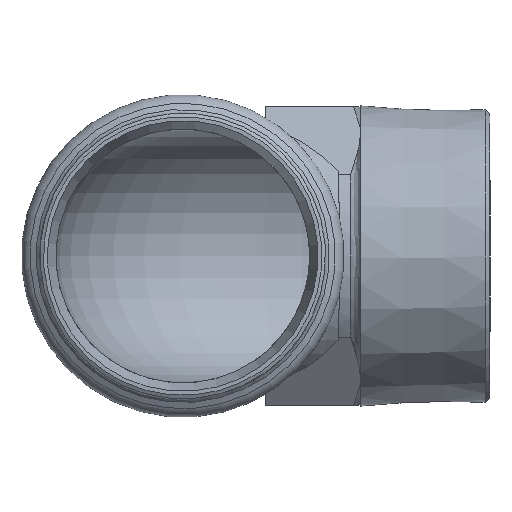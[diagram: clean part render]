
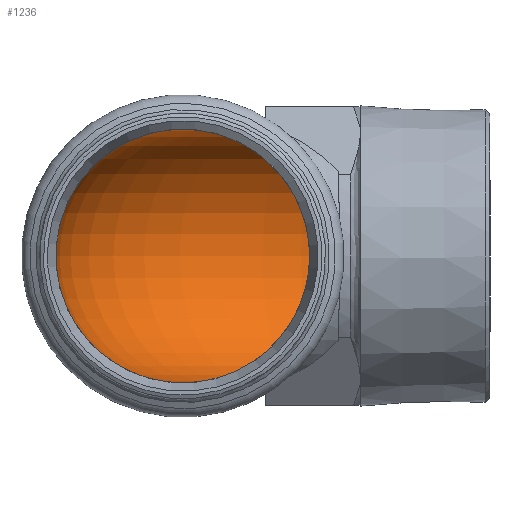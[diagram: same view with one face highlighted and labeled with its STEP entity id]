
A CAD part, left-side view. The second image highlights one B-rep face of the part: STEP entity #1236.
In plain terms, the highlighted toroidal (fillet/blend) face has major radius 31.7 mm and minor radius 25.5 mm.
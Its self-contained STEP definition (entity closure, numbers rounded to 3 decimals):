
#1173=CARTESIAN_POINT('',(25.5,-31.7,0.));
#1174=VERTEX_POINT('',#1173);
#1175=CARTESIAN_POINT('',(0.0,-31.7,0.0));
#1176=DIRECTION('',(0.0,-1.0,0.0));
#1177=DIRECTION('',(-1.0,0.0,0.0));
#1178=AXIS2_PLACEMENT_3D('',#1175,#1176,#1177);
#1179=CIRCLE('',#1178,25.5);
#1180=EDGE_CURVE('',#1174,#1174,#1179,.T.);
#1217=CARTESIAN_POINT('',(-31.7,-31.7,0.0));
#1218=DIRECTION('',(0.0,0.0,-1.0));
#1219=DIRECTION('',(-1.0,0.0,0.0));
#1220=AXIS2_PLACEMENT_3D('',#1217,#1218,#1219);
#1221=TOROIDAL_SURFACE('',#1220,31.7,25.5);
#1222=ORIENTED_EDGE('',*,*,#1180,.T.);
#1223=EDGE_LOOP('',(#1222));
#1224=FACE_OUTER_BOUND('',#1223,.T.);
#1225=CARTESIAN_POINT('',(-31.7,0.,-25.5));
#1226=VERTEX_POINT('',#1225);
#1227=CARTESIAN_POINT('',(-31.7,0.,0.0));
#1228=DIRECTION('',(1.0,0.0,0.0));
#1229=DIRECTION('',(0.0,1.0,0.0));
#1230=AXIS2_PLACEMENT_3D('',#1227,#1228,#1229);
#1231=CIRCLE('',#1230,25.5);
#1232=EDGE_CURVE('',#1226,#1226,#1231,.T.);
#1233=ORIENTED_EDGE('',*,*,#1232,.F.);
#1234=EDGE_LOOP('',(#1233));
#1235=FACE_BOUND('',#1234,.T.);
#1236=ADVANCED_FACE('',(#1224,#1235),#1221,.F.);
